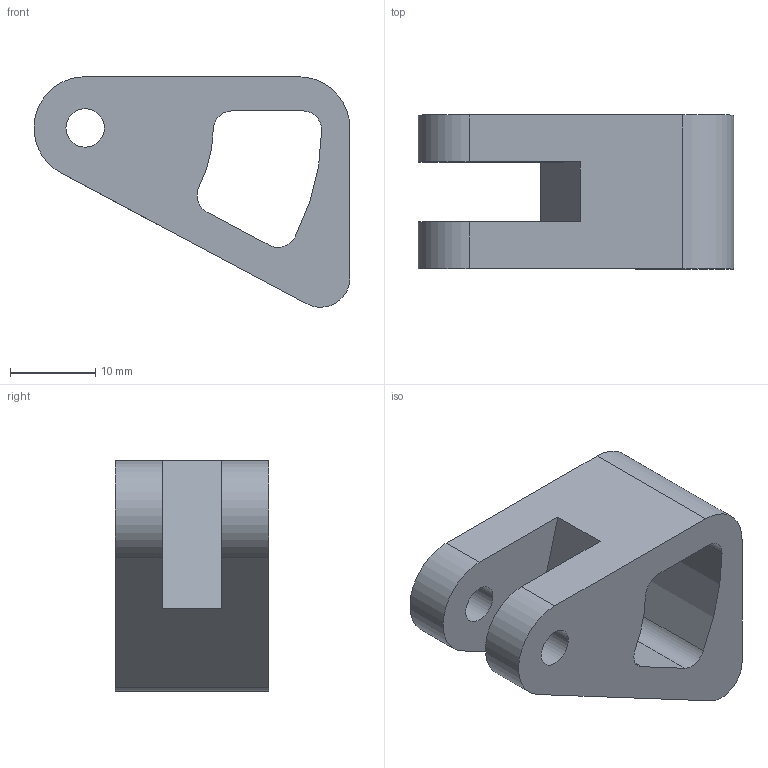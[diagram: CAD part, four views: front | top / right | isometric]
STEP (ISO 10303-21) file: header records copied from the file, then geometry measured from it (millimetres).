
FILE_DESCRIPTION((''),'2;1');
FILE_NAME('P1196','2012-03-12T',('jas'),(''),'PRO/ENGINEER BY PARAMETRIC TECHNOLOGY CORPORATION, 2011490','PRO/ENGINEER BY PARAMETRIC TECHNOLOGY CORPORATION, 2011490','');
FILE_SCHEMA(('AUTOMOTIVE_DESIGN { 1 0 10303 214 1 1 1 1 }'));
Length unit declared in the file: millimetre
Products named in the file (1): P1196
Bounding box: 36.98 x 18 x 27 mm (x, y, z)
Volume: 7539.4 mm3; surface area: 4246 mm2
Topology: 1 solids, 1 shells, 24 faces, 66 edges, 44 vertices
Faces by surface type: cylinder 14, plane 10
Entity records: 1366 total; most frequent: DIRECTION 142, CARTESIAN_POINT 136, ORIENTED_EDGE 132, PRESENTATION_STYLE_ASSIGNMENT 67, STYLED_ITEM 67, CURVE_STYLE 66, EDGE_CURVE 66, PROPERTY_DEFINITION 59
